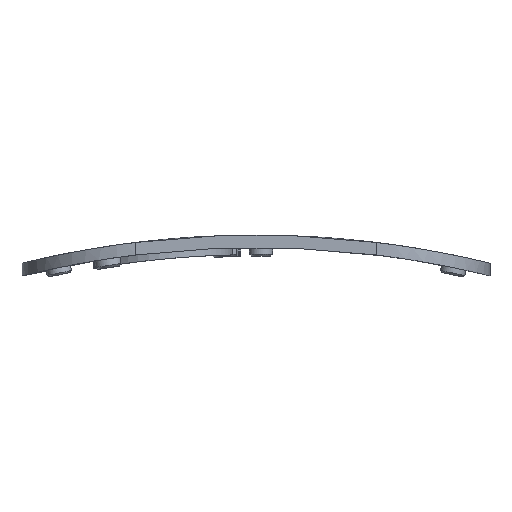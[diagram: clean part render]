
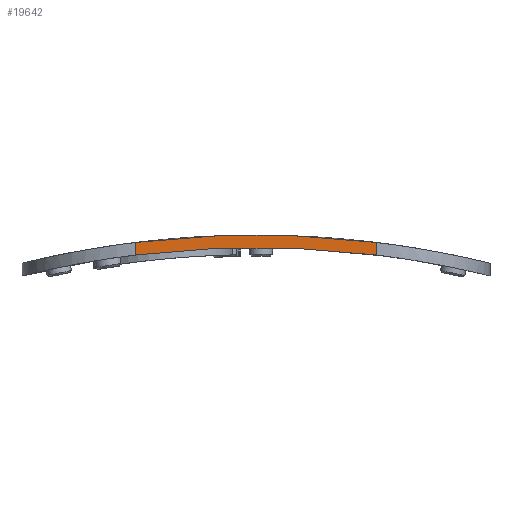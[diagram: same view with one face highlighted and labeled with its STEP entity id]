
A CAD part, front view. The second image highlights one B-rep face of the part: STEP entity #19642.
In plain terms, the highlighted planar face has unit normal (0, -1, 0).
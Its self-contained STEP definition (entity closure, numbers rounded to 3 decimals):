
#71 = CYLINDRICAL_SURFACE('',#72,111.371);
#72 = AXIS2_PLACEMENT_3D('',#73,#74,#75);
#73 = CARTESIAN_POINT('',(53.19,0.,-111.371));
#74 = DIRECTION('',(0.,-1.,0.));
#75 = DIRECTION('',(1.,0.,0.));
#98 = CYLINDRICAL_SURFACE('',#99,12.8);
#99 = AXIS2_PLACEMENT_3D('',#100,#101,#102);
#100 = CARTESIAN_POINT('',(39.64,8.32,2.));
#101 = DIRECTION('',(0.,0.,1.));
#102 = DIRECTION('',(1.,0.,0.));
#123 = CYLINDRICAL_SURFACE('',#124,109.971);
#124 = AXIS2_PLACEMENT_3D('',#125,#126,#127);
#125 = CARTESIAN_POINT('',(53.19,0.,-111.371));
#126 = DIRECTION('',(0.,-1.,0.));
#127 = DIRECTION('',(1.,0.,0.));
#280 = VERTEX_POINT('',#281);
#281 = CARTESIAN_POINT('',(39.64,-4.48,-2.238));
#407 = EDGE_CURVE('',#280,#408,#410,.T.);
#408 = VERTEX_POINT('',#409);
#409 = CARTESIAN_POINT('',(66.74,-4.48,-2.238));
#410 = SURFACE_CURVE('',#411,(#416,#423),.PCURVE_S1.);
#411 = CIRCLE('',#412,109.971);
#412 = AXIS2_PLACEMENT_3D('',#413,#414,#415);
#413 = CARTESIAN_POINT('',(53.19,-4.48,-111.371));
#414 = DIRECTION('',(-0.,1.,0.));
#415 = DIRECTION('',(1.,0.,0.));
#416 = PCURVE('',#123,#417);
#417 = DEFINITIONAL_REPRESENTATION('',(#418),#422);
#418 = LINE('',#419,#420);
#419 = CARTESIAN_POINT('',(6.283,4.48));
#420 = VECTOR('',#421,1.);
#421 = DIRECTION('',(-1.,-0.));
#422 = ( GEOMETRIC_REPRESENTATION_CONTEXT(2) 
PARAMETRIC_REPRESENTATION_CONTEXT() REPRESENTATION_CONTEXT('2D SPACE',''
  ) );
#423 = PCURVE('',#424,#429);
#424 = PLANE('',#425);
#425 = AXIS2_PLACEMENT_3D('',#426,#427,#428);
#426 = CARTESIAN_POINT('',(39.64,-4.48,2.));
#427 = DIRECTION('',(0.,-1.,0.));
#428 = DIRECTION('',(1.,0.,0.));
#429 = DEFINITIONAL_REPRESENTATION('',(#430),#438);
#430 = ( BOUNDED_CURVE() B_SPLINE_CURVE(2,(#431,#432,#433,#434,#435,#436
,#437),.UNSPECIFIED.,.T.,.F.) B_SPLINE_CURVE_WITH_KNOTS((1,2,2,2,2,1),(
    -2.094,0.,2.094,4.189,6.283,
8.378),.UNSPECIFIED.) CURVE() GEOMETRIC_REPRESENTATION_ITEM() 
RATIONAL_B_SPLINE_CURVE((1.,0.5,1.,0.5,1.,0.5,1.)) REPRESENTATION_ITEM(
  '') );
#431 = CARTESIAN_POINT('',(123.521,-113.371));
#432 = CARTESIAN_POINT('',(123.521,-303.848));
#433 = CARTESIAN_POINT('',(-41.436,-208.609));
#434 = CARTESIAN_POINT('',(-206.393,-113.371));
#435 = CARTESIAN_POINT('',(-41.436,-18.133));
#436 = CARTESIAN_POINT('',(123.521,77.105));
#437 = CARTESIAN_POINT('',(123.521,-113.371));
#438 = ( GEOMETRIC_REPRESENTATION_CONTEXT(2) 
PARAMETRIC_REPRESENTATION_CONTEXT() REPRESENTATION_CONTEXT('2D SPACE',''
  ) );
#489 = CYLINDRICAL_SURFACE('',#490,12.8);
#490 = AXIS2_PLACEMENT_3D('',#491,#492,#493);
#491 = CARTESIAN_POINT('',(66.74,8.32,2.));
#492 = DIRECTION('',(0.,0.,1.));
#493 = DIRECTION('',(1.,0.,0.));
#10861 = VERTEX_POINT('',#10862);
#10862 = CARTESIAN_POINT('',(39.64,-4.48,-0.827));
#10990 = EDGE_CURVE('',#10861,#280,#10991,.T.);
#10991 = SURFACE_CURVE('',#10992,(#10996,#11003),.PCURVE_S1.);
#10992 = LINE('',#10993,#10994);
#10993 = CARTESIAN_POINT('',(39.64,-4.48,2.));
#10994 = VECTOR('',#10995,1.);
#10995 = DIRECTION('',(-0.,-0.,-1.));
#10996 = PCURVE('',#98,#10997);
#10997 = DEFINITIONAL_REPRESENTATION('',(#10998),#11002);
#10998 = LINE('',#10999,#11000);
#10999 = CARTESIAN_POINT('',(4.712,0.));
#11000 = VECTOR('',#11001,1.);
#11001 = DIRECTION('',(0.,-1.));
#11002 = ( GEOMETRIC_REPRESENTATION_CONTEXT(2) 
PARAMETRIC_REPRESENTATION_CONTEXT() REPRESENTATION_CONTEXT('2D SPACE',''
  ) );
#11003 = PCURVE('',#424,#11004);
#11004 = DEFINITIONAL_REPRESENTATION('',(#11005),#11009);
#11005 = LINE('',#11006,#11007);
#11006 = CARTESIAN_POINT('',(0.,0.));
#11007 = VECTOR('',#11008,1.);
#11008 = DIRECTION('',(0.,-1.));
#11009 = ( GEOMETRIC_REPRESENTATION_CONTEXT(2) 
PARAMETRIC_REPRESENTATION_CONTEXT() REPRESENTATION_CONTEXT('2D SPACE',''
  ) );
#11015 = EDGE_CURVE('',#10861,#11016,#11018,.T.);
#11016 = VERTEX_POINT('',#11017);
#11017 = CARTESIAN_POINT('',(66.74,-4.48,-0.827));
#11018 = SURFACE_CURVE('',#11019,(#11024,#11031),.PCURVE_S1.);
#11019 = CIRCLE('',#11020,111.371);
#11020 = AXIS2_PLACEMENT_3D('',#11021,#11022,#11023);
#11021 = CARTESIAN_POINT('',(53.19,-4.48,-111.371));
#11022 = DIRECTION('',(-0.,1.,0.));
#11023 = DIRECTION('',(1.,0.,0.));
#11024 = PCURVE('',#71,#11025);
#11025 = DEFINITIONAL_REPRESENTATION('',(#11026),#11030);
#11026 = LINE('',#11027,#11028);
#11027 = CARTESIAN_POINT('',(6.283,4.48));
#11028 = VECTOR('',#11029,1.);
#11029 = DIRECTION('',(-1.,-0.));
#11030 = ( GEOMETRIC_REPRESENTATION_CONTEXT(2) 
PARAMETRIC_REPRESENTATION_CONTEXT() REPRESENTATION_CONTEXT('2D SPACE',''
  ) );
#11031 = PCURVE('',#424,#11032);
#11032 = DEFINITIONAL_REPRESENTATION('',(#11033),#11041);
#11033 = ( BOUNDED_CURVE() B_SPLINE_CURVE(2,(#11034,#11035,#11036,#11037
    ,#11038,#11039,#11040),.UNSPECIFIED.,.T.,.F.) 
B_SPLINE_CURVE_WITH_KNOTS((1,2,2,2,2,1),(-2.094,0.,
    2.094,4.189,6.283,8.378),
.UNSPECIFIED.) CURVE() GEOMETRIC_REPRESENTATION_ITEM() 
RATIONAL_B_SPLINE_CURVE((1.,0.5,1.,0.5,1.,0.5,1.)) REPRESENTATION_ITEM(
  '') );
#11034 = CARTESIAN_POINT('',(124.921,-113.371));
#11035 = CARTESIAN_POINT('',(124.921,-306.272));
#11036 = CARTESIAN_POINT('',(-42.136,-209.822));
#11037 = CARTESIAN_POINT('',(-209.193,-113.371));
#11038 = CARTESIAN_POINT('',(-42.136,-16.921));
#11039 = CARTESIAN_POINT('',(124.921,79.53));
#11040 = CARTESIAN_POINT('',(124.921,-113.371));
#11041 = ( GEOMETRIC_REPRESENTATION_CONTEXT(2) 
PARAMETRIC_REPRESENTATION_CONTEXT() REPRESENTATION_CONTEXT('2D SPACE',''
  ) );
#19642 = ADVANCED_FACE('',(#19643),#424,.T.);
#19643 = FACE_BOUND('',#19644,.T.);
#19644 = EDGE_LOOP('',(#19645,#19646,#19647,#19648));
#19645 = ORIENTED_EDGE('',*,*,#11015,.F.);
#19646 = ORIENTED_EDGE('',*,*,#10990,.T.);
#19647 = ORIENTED_EDGE('',*,*,#407,.T.);
#19648 = ORIENTED_EDGE('',*,*,#19649,.F.);
#19649 = EDGE_CURVE('',#11016,#408,#19650,.T.);
#19650 = SURFACE_CURVE('',#19651,(#19655,#19662),.PCURVE_S1.);
#19651 = LINE('',#19652,#19653);
#19652 = CARTESIAN_POINT('',(66.74,-4.48,2.));
#19653 = VECTOR('',#19654,1.);
#19654 = DIRECTION('',(-0.,-0.,-1.));
#19655 = PCURVE('',#424,#19656);
#19656 = DEFINITIONAL_REPRESENTATION('',(#19657),#19661);
#19657 = LINE('',#19658,#19659);
#19658 = CARTESIAN_POINT('',(27.1,0.));
#19659 = VECTOR('',#19660,1.);
#19660 = DIRECTION('',(0.,-1.));
#19661 = ( GEOMETRIC_REPRESENTATION_CONTEXT(2) 
PARAMETRIC_REPRESENTATION_CONTEXT() REPRESENTATION_CONTEXT('2D SPACE',''
  ) );
#19662 = PCURVE('',#489,#19663);
#19663 = DEFINITIONAL_REPRESENTATION('',(#19664),#19668);
#19664 = LINE('',#19665,#19666);
#19665 = CARTESIAN_POINT('',(4.712,0.));
#19666 = VECTOR('',#19667,1.);
#19667 = DIRECTION('',(0.,-1.));
#19668 = ( GEOMETRIC_REPRESENTATION_CONTEXT(2) 
PARAMETRIC_REPRESENTATION_CONTEXT() REPRESENTATION_CONTEXT('2D SPACE',''
  ) );
